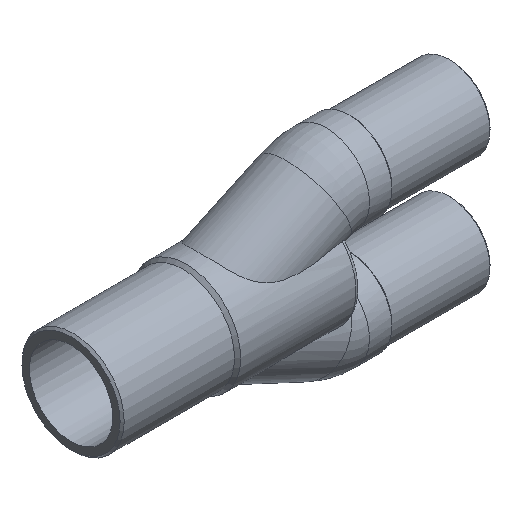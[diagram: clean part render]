
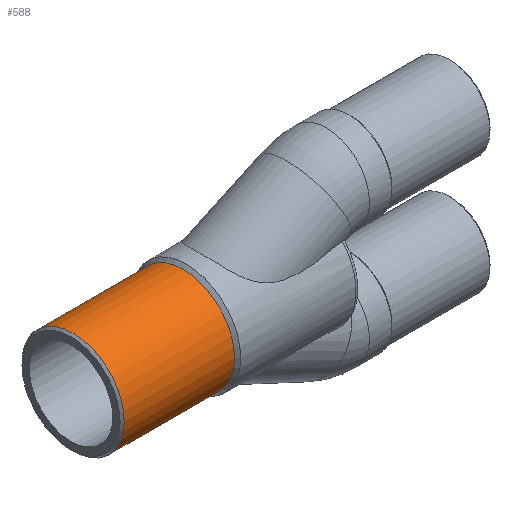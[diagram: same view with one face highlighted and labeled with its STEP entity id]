
A CAD part, isometric view. The second image highlights one B-rep face of the part: STEP entity #588.
In plain terms, the highlighted cylindrical face has radius 25 mm (diameter 50 mm), a full revolution.
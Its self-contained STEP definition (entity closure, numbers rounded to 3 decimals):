
#188=ORIENTED_EDGE('',*,*,#314,.T.);
#189=ORIENTED_EDGE('',*,*,#313,.T.);
#313=EDGE_CURVE('',#378,#378,#419,.T.);
#314=EDGE_CURVE('',#379,#379,#420,.T.);
#378=VERTEX_POINT('',#1174);
#379=VERTEX_POINT('',#1177);
#419=CIRCLE('',#682,25.);
#420=CIRCLE('',#684,25.);
#468=EDGE_LOOP('',(#188));
#469=EDGE_LOOP('',(#189));
#530=FACE_BOUND('',#468,.T.);
#531=FACE_BOUND('',#469,.T.);
#561=CYLINDRICAL_SURFACE('',#683,25.);
#588=ADVANCED_FACE('',(#530,#531),#561,.T.);
#682=AXIS2_PLACEMENT_3D('',#1173,#847,#848);
#683=AXIS2_PLACEMENT_3D('',#1175,#849,#850);
#684=AXIS2_PLACEMENT_3D('',#1176,#851,#852);
#847=DIRECTION('',(-1.,0.,0.));
#848=DIRECTION('',(0.,0.,1.));
#849=DIRECTION('',(-1.,0.,0.));
#850=DIRECTION('',(0.,0.,1.));
#851=DIRECTION('',(1.,0.,0.));
#852=DIRECTION('',(0.,0.,-1.));
#1173=CARTESIAN_POINT('',(-2.5,0.,0.));
#1174=CARTESIAN_POINT('',(-2.5,0.,25.));
#1175=CARTESIAN_POINT('',(-47.5,0.,0.));
#1176=CARTESIAN_POINT('',(-56.5,0.,0.));
#1177=CARTESIAN_POINT('',(-56.5,0.,-25.));
